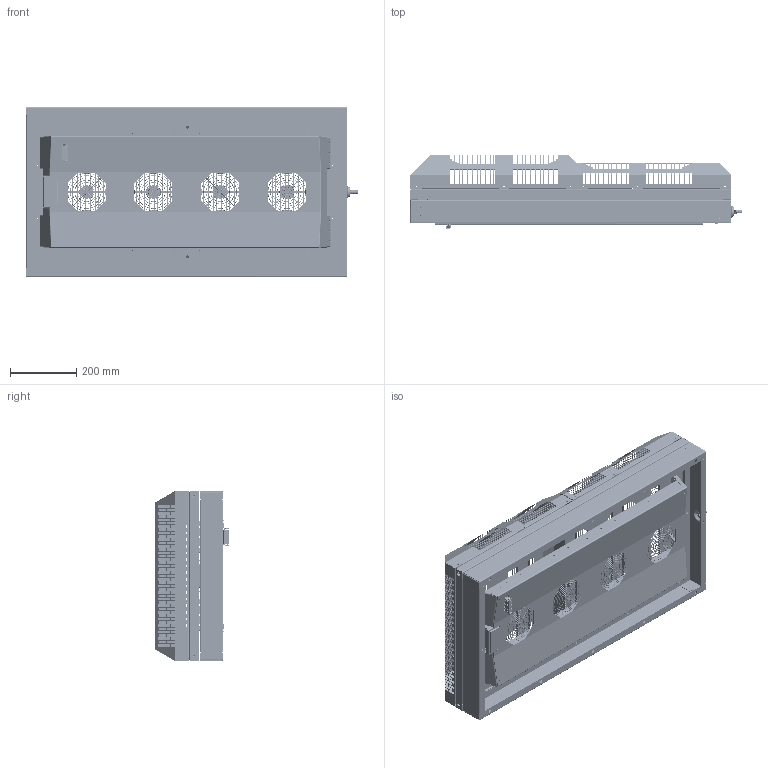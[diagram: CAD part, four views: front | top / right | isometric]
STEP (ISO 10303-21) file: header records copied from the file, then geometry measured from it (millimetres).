
FILE_DESCRIPTION((''),'2;1');
FILE_NAME('TG6805-COMPLETE-DUCT_ASM_1_ASM','2019-09-23T10:43:25',('briang'),(''),'CREO PARAMETRIC BY PTC INC, 2018500','CREO PARAMETRIC BY PTC INC, 2018500','');
FILE_SCHEMA(('CONFIG_CONTROL_DESIGN'));
Products named in the file (34): POPNUT_M8_HEX_CLOSED_A2_1; TG6805-HOUSING-1PC_1; TG680-1PIECE-HOUSING_MNF_ASM_1_ASM; TG6805-1PCHOUSING_ASM_1_ASM; TG6805-HOUSING_ASM_1_ASM; FINGER_GUARD_119X119_AXIAL_FAN_; TG3250_FOR_TG6250_ASM_1_ASM; TG6805-RELAY-BRKT_1; 072101080037_1; TG6805-RELAY-BRKT_ASM_1_ASM; TG6805-CNCTRS-COVER_1; TG6805-CNCTRS-COVER_ASM_1_ASM; TG6805-RELAY-COVER-SIDE1_1; TG6805-RELAY-COVER-SIDE1_ASM_1_ASM; TG6805-RELAY-COVER-SIDE2_1; TG6805-RELAY-COVER-SIDE2_ASM_1_ASM; TG6805-RELAY-COVER-SIDE2_MIR_1; TG6805-RELAY-COVER-SIDE2-MIRROR_ASM; TG6805-CNCTRS-COVER2_1; TG6805-CTRL-BRKT_1; CAREL_IR33PLUS_SEIFERT_1; CAREL_IR33_PLUS_SEIFERT_ASM_1_ASM; TG6805-COVER_1; TG6805-COVER_ASM_1_ASM; TG6805-COVER2_1; TG6805-COVER2_ASM_1_ASM; TG6805-DUCT-EDGES_1; TG6805-DUCT-EDGES2_1; TG8605-DUCT-EDGES3_1; TG6805-DUCT-EDGES-4_1; POPNUT_M6_HEX_OPEN_A2_1; TG6805-DUCT_ASM_1_ASM; WATERTRAY_DRAIN_FITTING_1; TG6805-COMPLETE-DUCT_ASM_1_ASM
Assembly tree (42 placements, depth 5):
  TG6805-COMPLETE-DUCT_ASM_1_ASM
    TG6805-HOUSING_ASM_1_ASM
      POPNUT_M8_HEX_CLOSED_A2_1  x2
      TG6805-1PCHOUSING_ASM_1_ASM
        TG680-1PIECE-HOUSING_MNF_ASM_1_ASM
          TG6805-HOUSING-1PC_1
          POPNUT_M8_HEX_CLOSED_A2_1  x2
    TG3250_FOR_TG6250_ASM_1_ASM  x4
      FINGER_GUARD_119X119_AXIAL_FAN_
    TG6805-RELAY-BRKT_ASM_1_ASM
      TG6805-RELAY-BRKT_1
      072101080037_1
    TG6805-CNCTRS-COVER_ASM_1_ASM
      TG6805-CNCTRS-COVER_1
    TG6805-RELAY-COVER-SIDE1_ASM_1_ASM
      TG6805-RELAY-COVER-SIDE1_1
    TG6805-RELAY-COVER-SIDE2_ASM_1_ASM
      TG6805-RELAY-COVER-SIDE2_1
    TG6805-RELAY-COVER-SIDE2-MIRROR_ASM
      TG6805-RELAY-COVER-SIDE2_MIR_1
    TG6805-CNCTRS-COVER2_1
    TG6805-CTRL-BRKT_1
    CAREL_IR33_PLUS_SEIFERT_ASM_1_ASM
      CAREL_IR33PLUS_SEIFERT_1
    TG6805-COVER_ASM_1_ASM
      TG6805-COVER_1
    TG6805-COVER2_ASM_1_ASM
      TG6805-COVER2_1
    TG6805-DUCT_ASM_1_ASM
      TG6805-DUCT-EDGES_1
      TG6805-DUCT-EDGES2_1
      TG8605-DUCT-EDGES3_1
      TG6805-DUCT-EDGES-4_1
      POPNUT_M6_HEX_OPEN_A2_1  x4
    WATERTRAY_DRAIN_FITTING_1
Bounding box: 1004.7 x 226 x 514 mm (x, y, z)
Volume: 3144457.1 mm3; surface area: 4197105.4 mm2
Topology: 29 solids, 38 shells, 9489 faces, 26338 edges, 15980 vertices
Faces by surface type: plane 6899, cylinder 1996, torus 360, bspline 122, cone 90, sphere 16, extrusion 6
Entity records: 291161 total; most frequent: CARTESIAN_POINT 57983, ORIENTED_EDGE 49524, DIRECTION 46440, EDGE_CURVE 24766, VECTOR 20190, LINE 20184, VERTEX_POINT 15053, AXIS2_PLACEMENT_3D 13125
